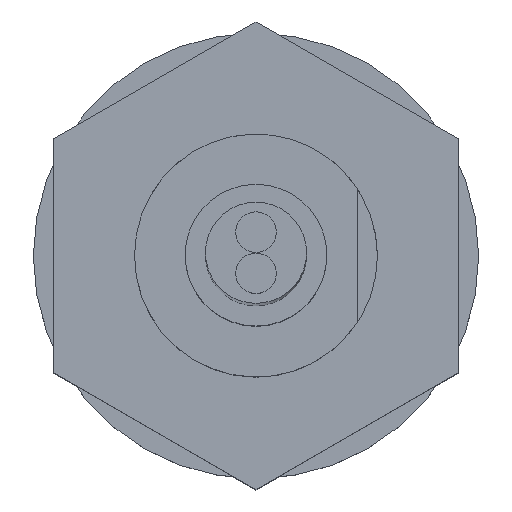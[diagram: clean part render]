
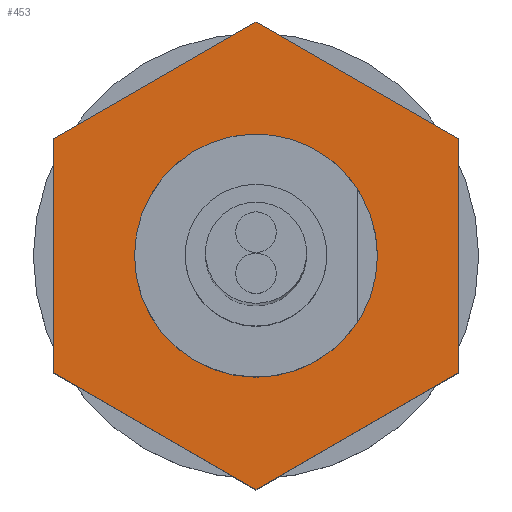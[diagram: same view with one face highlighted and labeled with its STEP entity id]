
A CAD part, top view. The second image highlights one B-rep face of the part: STEP entity #453.
In plain terms, the highlighted planar face has unit normal (0, 0, 1) as drawn and (-1, 0, 0) by its records, which use the part's own axes.
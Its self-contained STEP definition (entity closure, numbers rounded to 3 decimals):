
#12 = VERTEX_POINT ( 'NONE', #603 ) ;
#13 = ORIENTED_EDGE ( 'NONE', *, *, #14, .T. ) ;
#14 = EDGE_CURVE ( 'NONE', #12, #15, #602, .T. ) ;
#15 = VERTEX_POINT ( 'NONE', #598 ) ;
#16 = ORIENTED_EDGE ( 'NONE', *, *, #17, .T. ) ;
#17 = EDGE_CURVE ( 'NONE', #15, #18, #597, .T. ) ;
#18 = VERTEX_POINT ( 'NONE', #593 ) ;
#19 = ORIENTED_EDGE ( 'NONE', *, *, #20, .T. ) ;
#20 = EDGE_CURVE ( 'NONE', #18, #21, #592, .T. ) ;
#21 = VERTEX_POINT ( 'NONE', #588 ) ;
#22 = ORIENTED_EDGE ( 'NONE', *, *, #23, .T. ) ;
#23 = EDGE_CURVE ( 'NONE', #21, #66, #587, .T. ) ;
#24 = EDGE_LOOP ( 'NONE', ( #520, #518 ) ) ;
#64 = ORIENTED_EDGE ( 'NONE', *, *, #65, .T. ) ;
#65 = EDGE_CURVE ( 'NONE', #68, #12, #668, .T. ) ;
#66 = VERTEX_POINT ( 'NONE', #664 ) ;
#67 = EDGE_CURVE ( 'NONE', #66, #68, #663, .T. ) ;
#68 = VERTEX_POINT ( 'NONE', #659 ) ;
#69 = ORIENTED_EDGE ( 'NONE', *, *, #67, .T. ) ;
#311 = EDGE_CURVE ( 'NONE', #312, #313, #1122, .T. ) ;
#312 = VERTEX_POINT ( 'NONE', #1117 ) ;
#313 = VERTEX_POINT ( 'NONE', #1116 ) ;
#452 = EDGE_LOOP ( 'NONE', ( #69, #64, #13, #16, #19, #22 ) ) ;
#453 = ADVANCED_FACE ( 'NONE', ( #1320, #1319 ), #1372, .F. ) ;
#518 = ORIENTED_EDGE ( 'NONE', *, *, #519, .F. ) ;
#519 = EDGE_CURVE ( 'NONE', #313, #312, #1446, .T. ) ;
#520 = ORIENTED_EDGE ( 'NONE', *, *, #311, .F. ) ;
#584 = DIRECTION ( 'NONE',  ( 0., 1., 0. ) ) ;
#585 = VECTOR ( 'NONE', #584, 1000. ) ;
#586 = CARTESIAN_POINT ( 'NONE',  ( 43., -2.887, 5. ) ) ;
#587 = LINE ( 'NONE', #586, #585 ) ;
#588 = CARTESIAN_POINT ( 'NONE',  ( 43., -2.887, 5. ) ) ;
#589 = DIRECTION ( 'NONE',  ( 0., 0.5, 0.866 ) ) ;
#590 = VECTOR ( 'NONE', #589, 1000. ) ;
#591 = CARTESIAN_POINT ( 'NONE',  ( 43., -5.774, 0. ) ) ;
#592 = LINE ( 'NONE', #591, #590 ) ;
#593 = CARTESIAN_POINT ( 'NONE',  ( 43., -5.774, 0. ) ) ;
#594 = DIRECTION ( 'NONE',  ( 0., -0.5, 0.866 ) ) ;
#595 = VECTOR ( 'NONE', #594, 1000. ) ;
#596 = CARTESIAN_POINT ( 'NONE',  ( 43., -2.887, -5. ) ) ;
#597 = LINE ( 'NONE', #596, #595 ) ;
#598 = CARTESIAN_POINT ( 'NONE',  ( 43., -2.887, -5. ) ) ;
#599 = DIRECTION ( 'NONE',  ( 0., -1., 0. ) ) ;
#600 = VECTOR ( 'NONE', #599, 1000. ) ;
#601 = CARTESIAN_POINT ( 'NONE',  ( 43., 2.887, -5. ) ) ;
#602 = LINE ( 'NONE', #601, #600 ) ;
#603 = CARTESIAN_POINT ( 'NONE',  ( 43., 2.887, -5. ) ) ;
#659 = CARTESIAN_POINT ( 'NONE',  ( 43., 5.774, 0. ) ) ;
#660 = DIRECTION ( 'NONE',  ( 0., 0.5, -0.866 ) ) ;
#661 = VECTOR ( 'NONE', #660, 1000. ) ;
#662 = CARTESIAN_POINT ( 'NONE',  ( 43., 2.887, 5. ) ) ;
#663 = LINE ( 'NONE', #662, #661 ) ;
#664 = CARTESIAN_POINT ( 'NONE',  ( 43., 2.887, 5. ) ) ;
#665 = DIRECTION ( 'NONE',  ( 0., -0.5, -0.866 ) ) ;
#666 = VECTOR ( 'NONE', #665, 1000. ) ;
#667 = CARTESIAN_POINT ( 'NONE',  ( 43., 5.774, 0. ) ) ;
#668 = LINE ( 'NONE', #667, #666 ) ;
#1116 = CARTESIAN_POINT ( 'NONE',  ( 43., -3., 0. ) ) ;
#1117 = CARTESIAN_POINT ( 'NONE',  ( 43., 3., 0. ) ) ;
#1118 = DIRECTION ( 'NONE',  ( 0., -1., 0. ) ) ;
#1119 = DIRECTION ( 'NONE',  ( -1., 0., 0. ) ) ;
#1120 = CARTESIAN_POINT ( 'NONE',  ( 43., 0., 0. ) ) ;
#1121 = AXIS2_PLACEMENT_3D ( 'NONE', #1120, #1119, #1118 ) ;
#1122 = CIRCLE ( 'NONE', #1121, 3. ) ;
#1319 = FACE_BOUND ( 'NONE', #24, .T. ) ;
#1320 = FACE_OUTER_BOUND ( 'NONE', #452, .T. ) ;
#1368 = DIRECTION ( 'NONE',  ( 0., 1., 0. ) ) ;
#1369 = DIRECTION ( 'NONE',  ( 1., 0., 0. ) ) ;
#1370 = CARTESIAN_POINT ( 'NONE',  ( 43., 0., 10. ) ) ;
#1371 = AXIS2_PLACEMENT_3D ( 'NONE', #1370, #1369, #1368 ) ;
#1372 = PLANE ( 'NONE',  #1371 ) ;
#1444 = CARTESIAN_POINT ( 'NONE',  ( 43., 0., 0. ) ) ;
#1445 = AXIS2_PLACEMENT_3D ( 'NONE', #1444, #1502, #1501 ) ;
#1446 = CIRCLE ( 'NONE', #1445, 3. ) ;
#1501 = DIRECTION ( 'NONE',  ( 0., -1., 0. ) ) ;
#1502 = DIRECTION ( 'NONE',  ( -1., 0., 0. ) ) ;
